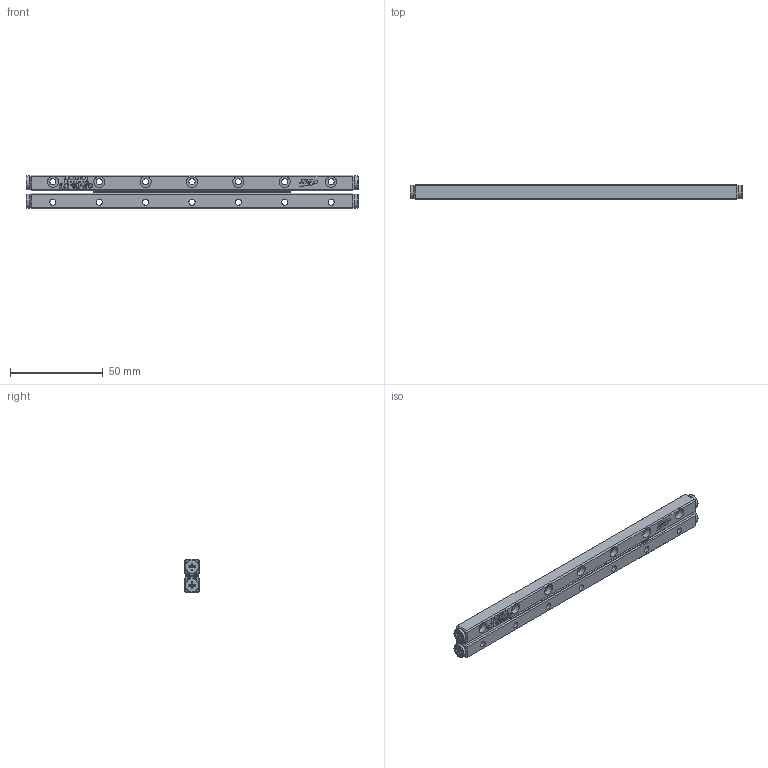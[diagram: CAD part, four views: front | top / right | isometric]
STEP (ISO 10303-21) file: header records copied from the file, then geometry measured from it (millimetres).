
FILE_DESCRIPTION (( 'STEP AP203' ), '1' );
FILE_NAME ('GRV03-175.STEP', '2023-10-16T05:07:36', ( '' ), ( '' ), 'SwSTEP 2.0', 'SolidWorks 2019', '' );
FILE_SCHEMA (( 'CONFIG_CONTROL_DESIGN' ));
Length unit declared in the file: millimetre
Products named in the file (3): GRV03-175-模糊化保持器組; GRV03-175-模糊化軌道; GRV03-175
Assembly tree (3 placements, depth 2):
  GRV03-175
    GRV03-175-模糊化軌道  x2
    GRV03-175-模糊化保持器組
Bounding box: 179 x 8 x 18 mm (x, y, z)
Volume: 21195.2 mm3; surface area: 15506.3 mm2
Topology: 3 solids, 3 shells, 1082 faces, 2680 edges, 1736 vertices
Faces by surface type: plane 810, bspline 110, cylinder 76, torus 50, cone 36
Full cylindrical faces by diameter (mm): 3.3 x14, 6 x14, 7.5 x4
Entity records: 24447 total; most frequent: CARTESIAN_POINT 7566, ORIENTED_EDGE 3516, DIRECTION 3029, EDGE_CURVE 1758, VECTOR 1305, LINE 1305, VERTEX_POINT 1157, EDGE_LOOP 879
